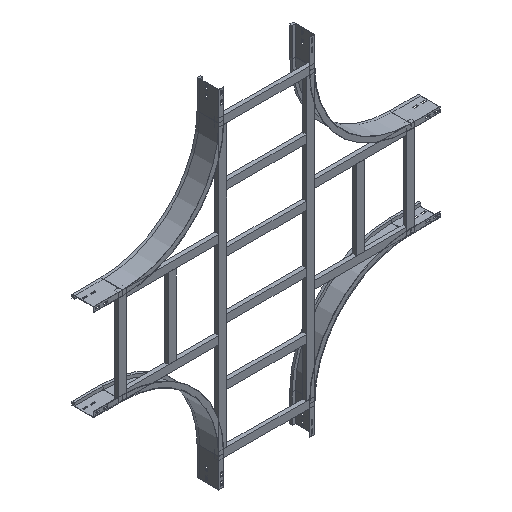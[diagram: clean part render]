
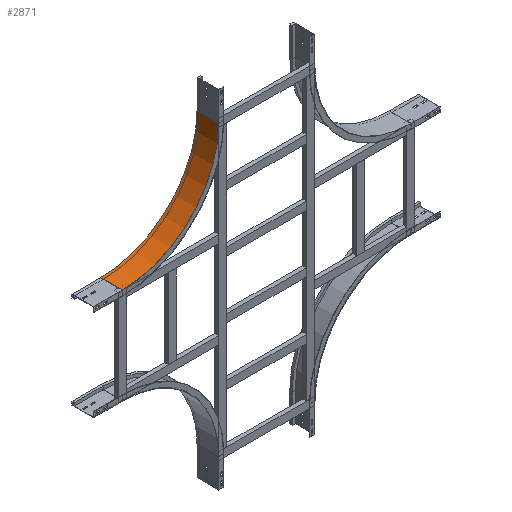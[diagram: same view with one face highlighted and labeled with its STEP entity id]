
A CAD part, isometric view. The second image highlights one B-rep face of the part: STEP entity #2871.
In plain terms, the highlighted cylindrical face has radius 500 mm (diameter 1000 mm), a partial arc.
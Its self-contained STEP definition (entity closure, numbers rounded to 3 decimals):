
#10 = DIRECTION ( 'NONE',  ( 0., -1., 0. ) ) ;
#40 = ORIENTED_EDGE ( 'NONE', *, *, #657, .T. ) ;
#61 = DIRECTION ( 'NONE',  ( 0., 1., 0. ) ) ;
#203 = DIRECTION ( 'NONE',  ( -1., 0., 0. ) ) ;
#259 = ORIENTED_EDGE ( 'NONE', *, *, #938, .F. ) ;
#294 = VERTEX_POINT ( 'NONE', #344 ) ;
#344 = CARTESIAN_POINT ( 'NONE',  ( 0., 112.5, -150. ) ) ;
#348 = AXIS2_PLACEMENT_3D ( 'NONE', #596, #768, #1703 ) ;
#412 = CARTESIAN_POINT ( 'NONE',  ( 500., 112.5, -150. ) ) ;
#554 = FACE_OUTER_BOUND ( 'NONE', #2133, .T. ) ;
#596 = CARTESIAN_POINT ( 'NONE',  ( 500., 0., -150. ) ) ;
#634 = CIRCLE ( 'NONE', #1294, 500. ) ;
#653 = CARTESIAN_POINT ( 'NONE',  ( 0., 0., -150. ) ) ;
#657 = EDGE_CURVE ( 'NONE', #1170, #2840, #2797, .T. ) ;
#661 = VECTOR ( 'NONE', #1558, 1000. ) ;
#768 = DIRECTION ( 'NONE',  ( 0., -1., 0. ) ) ;
#887 = LINE ( 'NONE', #653, #661 ) ;
#938 = EDGE_CURVE ( 'NONE', #294, #2840, #2578, .T. ) ;
#939 = EDGE_CURVE ( 'NONE', #2037, #1170, #634, .T. ) ;
#1153 = VECTOR ( 'NONE', #61, 1000. ) ;
#1170 = VERTEX_POINT ( 'NONE', #1656 ) ;
#1280 = CARTESIAN_POINT ( 'NONE',  ( 0., 0., -150. ) ) ;
#1294 = AXIS2_PLACEMENT_3D ( 'NONE', #2246, #10, #1303 ) ;
#1303 = DIRECTION ( 'NONE',  ( -1., 0., 0. ) ) ;
#1558 = DIRECTION ( 'NONE',  ( 0., 1., 0. ) ) ;
#1656 = CARTESIAN_POINT ( 'NONE',  ( 500., 0., -650. ) ) ;
#1660 = CARTESIAN_POINT ( 'NONE',  ( 500., 0., -650. ) ) ;
#1673 = CYLINDRICAL_SURFACE ( 'NONE', #348, 500. ) ;
#1703 = DIRECTION ( 'NONE',  ( 0., 0., -1. ) ) ;
#1861 = ORIENTED_EDGE ( 'NONE', *, *, #939, .T. ) ;
#1877 = ORIENTED_EDGE ( 'NONE', *, *, #2145, .F. ) ;
#2037 = VERTEX_POINT ( 'NONE', #1280 ) ;
#2108 = AXIS2_PLACEMENT_3D ( 'NONE', #412, #2672, #203 ) ;
#2133 = EDGE_LOOP ( 'NONE', ( #259, #1877, #1861, #40 ) ) ;
#2145 = EDGE_CURVE ( 'NONE', #2037, #294, #887, .T. ) ;
#2246 = CARTESIAN_POINT ( 'NONE',  ( 500., 0., -150. ) ) ;
#2367 = CARTESIAN_POINT ( 'NONE',  ( 500., 112.5, -650. ) ) ;
#2578 = CIRCLE ( 'NONE', #2108, 500. ) ;
#2672 = DIRECTION ( 'NONE',  ( 0., -1., 0. ) ) ;
#2797 = LINE ( 'NONE', #1660, #1153 ) ;
#2840 = VERTEX_POINT ( 'NONE', #2367 ) ;
#2871 = ADVANCED_FACE ( 'NONE', ( #554 ), #1673, .F. ) ;
